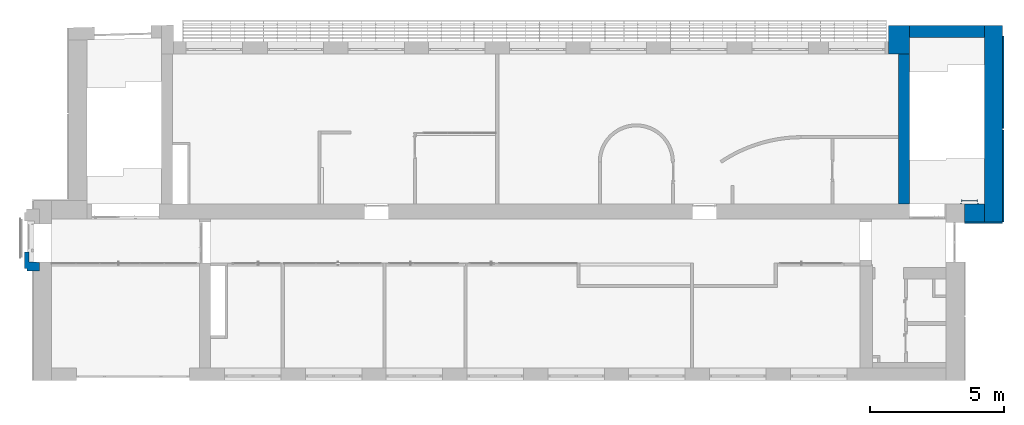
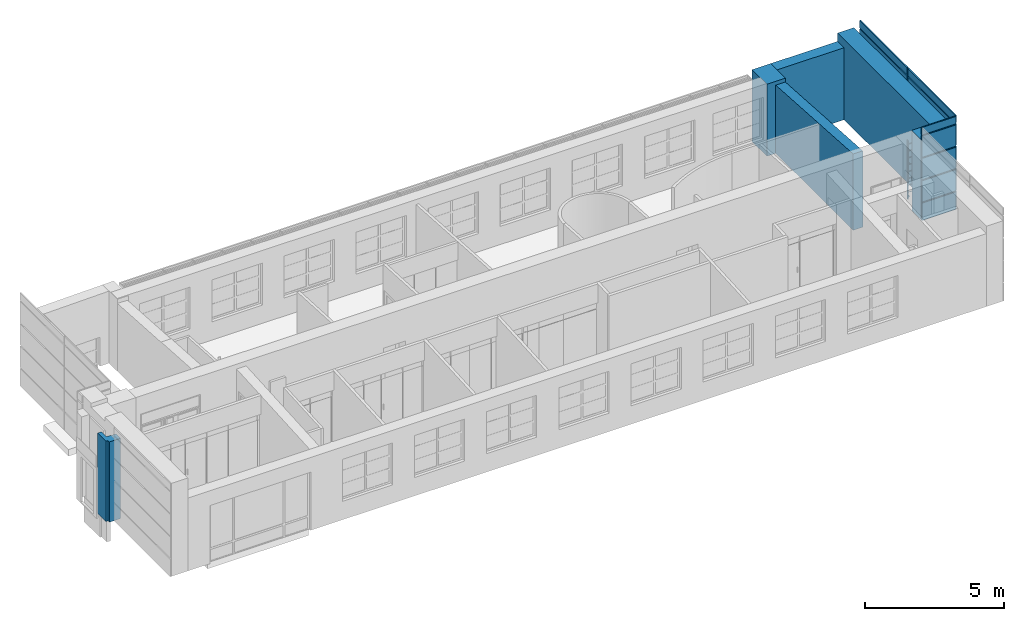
# One storey, part 41 of 46: 8 walls, 1 stair, 2 openings, 1 element without a shape of its own.
"""IFC2X3 building model written with IfcOpenShell, lengths in millimetres."""

from ifc_helpers import new_model, entity, si_unit, converted_unit, derived_unit, direction, frame, frame_2d, origin, origin_2d_with_axis, place, context, subcontext, project, spatial, polyline, rectangle, outline, extrude, clip, halfspace, face_set, surface_model, material, material_list, layer, layer_set, layer_usage, type_object, element, aggregate, save


model = new_model("IFC2X3")

# Units and contexts
model_context = context("Model", 3, precision=0.01, world=origin(), true_north=direction((6.12303176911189e-17, 1.0)))
body_context = subcontext(model_context, "Body", "Model", "MODEL_VIEW")
ifc_project = project(units=[si_unit("LENGTHUNIT", "METRE", prefix="MILLI"), si_unit("AREAUNIT", "SQUARE_METRE"), si_unit("VOLUMEUNIT", "CUBIC_METRE"), converted_unit("PLANEANGLEUNIT", "DEGREE", entity("IfcRatioMeasure", 0.0174532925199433), si_unit("PLANEANGLEUNIT", "RADIAN"), dimensions=[0, 0, 0, 0, 0, 0, 0]), si_unit("MASSUNIT", "GRAM", prefix="KILO"), derived_unit("MASSDENSITYUNIT", [(si_unit("MASSUNIT", "GRAM", prefix="KILO"), 1), (si_unit("LENGTHUNIT", "METRE"), -3)]), si_unit("TIMEUNIT", "SECOND"), si_unit("FREQUENCYUNIT", "HERTZ"), si_unit("THERMODYNAMICTEMPERATUREUNIT", "DEGREE_CELSIUS"), derived_unit("THERMALTRANSMITTANCEUNIT", [(si_unit("MASSUNIT", "GRAM", prefix="KILO"), 1), (si_unit("THERMODYNAMICTEMPERATUREUNIT", "KELVIN"), -1), (si_unit("TIMEUNIT", "SECOND"), -3)]), derived_unit("VOLUMETRICFLOWRATEUNIT", [(si_unit("LENGTHUNIT", "METRE"), 3), (si_unit("TIMEUNIT", "SECOND"), -1)]), si_unit("ELECTRICCURRENTUNIT", "AMPERE"), si_unit("ELECTRICVOLTAGEUNIT", "VOLT"), si_unit("POWERUNIT", "WATT"), si_unit("FORCEUNIT", "NEWTON", prefix="KILO"), si_unit("ILLUMINANCEUNIT", "LUX"), si_unit("LUMINOUSFLUXUNIT", "LUMEN"), si_unit("LUMINOUSINTENSITYUNIT", "CANDELA"), derived_unit("USERDEFINED", [(si_unit("MASSUNIT", "GRAM", prefix="KILO"), -1), (si_unit("LENGTHUNIT", "METRE"), -2), (si_unit("TIMEUNIT", "SECOND"), 3), (si_unit("LUMINOUSFLUXUNIT", "LUMEN"), 1)]), derived_unit("LINEARVELOCITYUNIT", [(si_unit("LENGTHUNIT", "METRE"), 1), (si_unit("TIMEUNIT", "SECOND"), -1)]), si_unit("PRESSUREUNIT", "PASCAL"), derived_unit("USERDEFINED", [(si_unit("LENGTHUNIT", "METRE"), -2), (si_unit("MASSUNIT", "GRAM", prefix="KILO"), 1), (si_unit("TIMEUNIT", "SECOND"), -2)])], contexts=[model_context])

# Site, building, storey
site_placement = place(None, frame((-151.875543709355, 2715.0, 0.0)))
site = spatial("IfcSite", under=ifc_project, at=site_placement, Name="Surface", CompositionType="ELEMENT")
building_placement = place(site_placement, origin())
building = spatial("IfcBuilding", under=site, at=building_placement, CompositionType="ELEMENT")
storey_placement = place(building_placement, frame((0.0, 0.0, 10060.0)))
storey = spatial("IfcBuildingStorey", under=building, at=storey_placement, Name="4 korrus", CompositionType="ELEMENT", Elevation=10060.0000000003)

# Wall
ifc_material_1 = material(Name="Paint - Sand Beige")
wall_type_1 = type_object("IfcWallType", Name="SEIN - 006", PredefinedType="NOTDEFINED", material=ifc_material_1)
wall_1_placement = place(storey_placement, frame((-541.883383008, 4071.05734432, 0.0), z_axis=(0.0, 0.0, 1.0), x_axis=(0.0, 1.0, 0.0)))
element("IfcWall", 1, at=wall_1_placement, inside=storey, type_object=wall_type_1, material=ifc_material_1, Name="SEIN - 006 159147:SEIN - 006 159147", ObjectType="SEIN - 006 159147:SEIN - 006 159147", context=body_context, shape_type="SurfaceModel", body=[
    surface_model("IfcFaceBasedSurfaceModel", [(99.9999990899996, -82.139787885, 3540.0), (99.9999990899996, 0.0, 3540.0), (100.00182932, 0.0, 0.0), (100.00182932, -82.139787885, 0.0), (99.9999990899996, -82.139787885, 3540.0), (0.0, -82.139787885, 3540.0), (0.0, -541.758928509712, 3540.0), (318.92299153, -541.758928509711, 3540.0), (341.8398406, -162.013561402, 3540.0), (700.32644567, -162.013561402, 3540.0), (700.32644567, 0.0, 3540.0), (99.9999990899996, 0.0, 3540.0), (99.9999990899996, 0.0, 3540.0), (700.32644567, 0.0, 3540.0), (700.32828135, 0.0, 0.0), (100.00182932, 0.0, 0.0), (0.00182932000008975, -82.139787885, 0.0), (0.00182932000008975, -541.758928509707, 0.0), (318.92299153, -541.758928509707, 0.0), (341.84167301, -162.013561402, 0.0), (700.32828135, -162.013561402, 0.0), (700.32828135, 0.0, 0.0), (100.00182932, 0.0, 0.0), (100.00182932, -82.139787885, 0.0), (0.0, -82.139787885, 3540.0), (99.9999990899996, -82.139787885, 3540.0), (100.00182932, -82.139787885, 0.0), (0.00182932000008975, -82.139787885, 0.0), (0.00182932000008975, -82.139787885, 0.0), (0.00182932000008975, -541.758928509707, 0.0), (0.0, -541.758928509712, 3540.0), (0.0, -82.139787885, 3540.0), (0.00182932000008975, -541.758928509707, 0.0), (318.92299153, -541.758928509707, 0.0), (318.92299153, -541.758928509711, 3540.0), (0.0, -541.758928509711, 3540.0), (341.841216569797, -162.013533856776, 0.0), (341.839384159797, -162.013533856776, 3540.0), (318.922535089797, -541.758900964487, 3540.0), (318.924360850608, -541.759011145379, 0.0), (341.8398406, -162.013561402, 3540.0), (341.84167301, -162.013561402, 0.0), (700.32828135, -162.013561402, 0.0), (700.32644567, -162.013561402, 3540.0), (700.326445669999, 0.0, 3540.0), (700.326445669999, -162.013561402, 3540.0), (700.32828135, -162.013561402, 0.0), (700.32828135, 0.0, 0.0)], [face_set([[[0, 1, 2, 3]]]), face_set([[[4, 5, 6, 7, 8, 9, 10, 11]]]), face_set([[[12, 13, 14, 15]]]), face_set([[[16, 17, 18, 19, 20, 21, 22, 23]]]), face_set([[[24, 25, 26, 27]]]), face_set([[[28, 29, 30, 31]]]), face_set([[[32, 33, 34, 35]]]), face_set([[[36, 37, 38, 39]]]), face_set([[[40, 41, 42, 43]]]), face_set([[[44, 45, 46, 47]]])]),
])

# Wall, opening
ifc_material_2 = material(Name="Brick, Common")
ifc_layer_1 = layer(ifc_material_2, 750.0)
ifc_material_3 = material(Name="__Kips GN13_tava")
ifc_layer_2 = layer(ifc_material_3, 20.0)
ifc_layer_set_1 = layer_set([ifc_layer_1, ifc_layer_2], Name="Basic Wall:VS-1_770")
ifc_layer_usage_1 = layer_usage(ifc_layer_set_1, "AXIS2", "NEGATIVE", 385.0)
wall_type_2 = type_object("IfcWallType", Name="Basic Wall:VS-1_770", PredefinedType="STANDARD", material=ifc_layer_set_1)
wall_2_placement = place(storey_placement, frame((31987.6162682, 12150.0, 0.0), z_axis=(0.0, 0.0, 1.0), x_axis=(0.0, 1.0, 0.0)))
wall_2 = element("IfcWallStandardCase", 2, at=wall_2_placement, inside=storey, type_object=wall_type_2, material=ifc_layer_usage_1, Name="SEIN - 003", ObjectType="Basic Wall:VS-1_770", context=body_context, shape_type="SweptSolid", body=[
    extrude(rectangle(XDim=1060.0, YDim=769.999999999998, at=frame_2d((530.0, 0.0), x_axis=(-1.0, 0.0))), origin(), (0.0, 0.0, 1.0), 3171.36961755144),
])
opening_1_placement = place(wall_2_placement, origin())
element("IfcOpeningElement", 3, at=opening_1_placement, cuts=wall_2, Name="SEIN - 003", ObjectType="Opening", context=body_context, shape_type="SweptSolid", body=[
    extrude(rectangle(XDim=2099.99999999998, YDim=459.999999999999, at=frame_2d((0.0, 0.0), x_axis=(0.0, 1.0))), frame((830.0, -1685.0, -590.0), z_axis=(0.0, 1.0, 0.0), x_axis=(1.0, 0.0, 0.0)), (0.0, 0.0, 1.0), 1300.0),
])

ifc_layer_3 = layer(ifc_material_2, 440.0)
ifc_layer_4 = layer(ifc_material_3, 20.0)
ifc_layer_set_2 = layer_set([ifc_layer_3, ifc_layer_4], Name="Basic Wall:VS-1")
ifc_layer_usage_2 = layer_usage(ifc_layer_set_2, "AXIS2", "POSITIVE", -230.0)
wall_type_3 = type_object("IfcWallType", Name="Basic Wall:VS-1", PredefinedType="STANDARD", material=ifc_layer_set_2)
wall_3_placement = place(storey_placement, frame((35166.6162682, 12980.0, 0.0), z_axis=(0.0, 0.0, 1.0), x_axis=(-1.0, 0.0, 0.0)))
wall_3 = element("IfcWallStandardCase", 4, at=wall_3_placement, inside=storey, type_object=wall_type_3, material=ifc_layer_usage_2, Name="SEIN - 003", ObjectType="Basic Wall:VS-1", context=body_context, shape_type="SweptSolid", body=[
    extrude(rectangle(XDim=2794.00000000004, YDim=459.999999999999, at=frame_2d((1397.00000000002, 0.0), x_axis=(-1.0, 0.0))), origin(), (0.0, 0.0, 1.0), 3171.36961755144),
])
opening_2_placement = place(wall_3_placement, origin())
element("IfcOpeningElement", 5, at=opening_2_placement, cuts=wall_3, Name="SEIN - 003", ObjectType="Opening", context=body_context, shape_type="SweptSolid", body=[
    extrude(rectangle(XDim=2099.99999999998, YDim=1300.0, at=origin_2d_with_axis()), frame((2144.0, -1294.0, -590.0), z_axis=(0.0, 1.0, 0.0), x_axis=(0.0, 0.0, 1.0)), (0.0, 0.0, 1.0), 3048.0),
])

# Walls
ifc_material_4 = material(Name="__Tuuletõkkeplaat")
ifc_layer_5 = layer(ifc_material_4, 9.0)
ifc_material_5 = material(Name="__Soojustus EPS")
ifc_layer_6 = layer(ifc_material_5, 200.0)
ifc_layer_7 = layer(ifc_material_2, 450.0)
ifc_layer_8 = layer(ifc_material_3, 20.0)
ifc_layer_set_3 = layer_set([ifc_layer_5, ifc_layer_6, ifc_layer_7, ifc_layer_8], Name="Basic Wall:VS-2_olemasolev sein fassaadikassettidega")
ifc_layer_usage_3 = layer_usage(ifc_layer_set_3, "AXIS2", "POSITIVE", -339.5)
wall_type_4 = type_object("IfcWallType", Name="Basic Wall:VS-2_olemasolev sein fassaadikassettidega", PredefinedType="STANDARD", material=ifc_layer_set_3)
wall_4_placement = place(storey_placement, frame((35506.1162682, 5891.0, 0.0), z_axis=(0.0, 0.0, 1.0), x_axis=(0.0, 1.0, 0.0)))
element("IfcWallStandardCase", 6, at=wall_4_placement, inside=storey, type_object=wall_type_4, material=ifc_layer_usage_3, Name="SEIN - 002", ObjectType="Basic Wall:VS-2_olemasolev sein fassaadikassettidega", context=body_context, shape_type="SweptSolid", body=[
    extrude(rectangle(XDim=7318.99999999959, YDim=679.000000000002, at=frame_2d((3659.49999999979, 0.0), x_axis=(-1.0, 0.0))), origin(), (0.0, 0.0, 1.0), 3540.0),
])
ifc_layer_usage_4 = layer_usage(ifc_layer_set_3, "AXIS2", "POSITIVE", -339.5)
wall_5_placement = place(storey_placement, frame((34420.6162682, 6230.5, 0.0)))
element("IfcWallStandardCase", 7, at=wall_5_placement, inside=storey, type_object=wall_type_4, material=ifc_layer_usage_4, Name="SEIN - 003", ObjectType="Basic Wall:VS-2_olemasolev sein fassaadikassettidega", context=body_context, shape_type="SweptSolid", body=[
    extrude(rectangle(XDim=745.999999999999, YDim=678.999999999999, at=frame_2d((373.0, 0.0), x_axis=(-1.0, 0.0))), origin(), (0.0, 0.0, 1.0), 3540.0),
])
ifc_material_6 = material(Name="__Hall krohv")
ifc_layer_9 = layer(ifc_material_6, 10.0)
ifc_material_7 = material(Name="Tellis")
ifc_layer_10 = layer(ifc_material_7, 380.0)
ifc_layer_11 = layer(ifc_material_6, 10.0)
ifc_layer_set_4 = layer_set([ifc_layer_9, ifc_layer_10, ifc_layer_11], Name="Basic Wall:SS-01_ol.olev tellissein400")
ifc_layer_usage_5 = layer_usage(ifc_layer_set_4, "AXIS2", "NEGATIVE", 200.0)
wall_type_5 = type_object("IfcWallType", Name="Basic Wall:SS-01_ol.olev tellissein400", PredefinedType="STANDARD", material=ifc_layer_set_4)
wall_6_placement = place(storey_placement, frame((32172.6162682, 6560.0, 0.0), z_axis=(0.0, 0.0, 1.0), x_axis=(0.0, 1.0, 0.0)))
element("IfcWallStandardCase", 8, at=wall_6_placement, inside=storey, type_object=wall_type_5, material=ifc_layer_usage_5, Name="SEIN - 003", ObjectType="Basic Wall:SS-01_ol.olev tellissein400", context=body_context, shape_type="Clipping", body=[
    clip(extrude(rectangle(XDim=5590.0, YDim=400.000000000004, at=frame_2d((2795.0, 0.0), x_axis=(-1.0, 0.0))), origin(), (0.0, 0.0, 1.0), 3361.62650060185), halfspace(frame((0.0, -200.0, 3361.62650060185), z_axis=(0.0639160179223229, 0.0, 0.997955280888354), x_axis=(0.0, 1.0, 0.0)), False)),
])
ifc_material_8 = material(Name="Steel/Aluminium")
wall_type_6 = type_object("IfcWallType", Name="fassaad5:fassaad5", PredefinedType="NOTDEFINED", material=ifc_material_8)
wall_7_placement = place(storey_placement, frame((35845.6162682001, 5891.0, 0.0), z_axis=(0.0, 0.0, 1.0), x_axis=(0.0, 1.0, 0.0)))
element("IfcWall", 9, at=wall_7_placement, inside=storey, type_object=wall_type_6, material=ifc_material_8, Name="fassaad5:fassaad5", ObjectType="fassaad5:fassaad5", context=body_context, shape_type="SweptSolid", body=[
    extrude(rectangle(XDim=3435.0, YDim=50.0000000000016, at=origin_2d_with_axis()), frame((5202.5, -25.0, 0.0)), (0.0, 0.0, 1.0), 770.115269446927),
    extrude(rectangle(XDim=3434.99999999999, YDim=50.0000000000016, at=frame_2d((5.6843418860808e-13, 0.0), x_axis=(1.0, 0.0))), frame((1717.5, -25.0, 820.115269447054)), (0.0, 0.0, 1.0), 934.999999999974),
    extrude(rectangle(XDim=3435.0, YDim=50.0000000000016, at=frame_2d((5.6843418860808e-13, -2.16715534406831e-12), x_axis=(1.0, 0.0))), frame((1717.5, -25.0, 0.0)), (0.0, 0.0, 1.0), 770.115269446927),
    extrude(rectangle(XDim=3435.00000000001, YDim=50.0000000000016, at=frame_2d((0.0, 2.16537898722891e-12), x_axis=(1.0, 0.0))), frame((5202.5, -25.0, 2790.11526944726)), (0.0, 0.0, 1.0), 934.999999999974),
    extrude(rectangle(XDim=3435.0, YDim=50.0000000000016, at=frame_2d((5.6843418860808e-13, 0.0), x_axis=(1.0, 0.0))), frame((1717.5, -25.0, 2790.11526944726)), (0.0, 0.0, 1.0), 934.999999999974),
    extrude(rectangle(XDim=3435.00000000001, YDim=50.0000000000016, at=frame_2d((0.0, -2.16537898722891e-12), x_axis=(1.0, 0.0))), frame((5202.5, -25.0, 820.115269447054)), (0.0, 0.0, 1.0), 934.999999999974),
    extrude(rectangle(XDim=3435.00000000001, YDim=50.0000000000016, at=frame_2d((-1.13686837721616e-12, 4.33075797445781e-12), x_axis=(1.0, 0.0))), frame((5202.5, -25.0, 3775.11526944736)), (0.0, 0.0, 1.0), 324.884730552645),
    extrude(rectangle(XDim=3434.99999999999, YDim=50.0000000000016, at=frame_2d((5.6843418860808e-13, -2.16715534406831e-12), x_axis=(1.0, 0.0))), frame((1717.5, -25.0, 3775.11526944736)), (0.0, 0.0, 1.0), 324.884730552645),
    extrude(rectangle(XDim=3434.99999999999, YDim=50.0000000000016, at=frame_2d((0.0, -4.33253433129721e-12), x_axis=(1.0, 0.0))), frame((1717.5, -25.0, 1805.11526944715)), (0.0, 0.0, 1.0), 934.999999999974),
    extrude(rectangle(XDim=3435.00000000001, YDim=50.0000000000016, at=frame_2d((4.54747350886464e-13, -2.16537898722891e-12), x_axis=(1.0, 0.0))), frame((5202.5, -25.0, 1805.11526944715)), (0.0, 0.0, 1.0), 934.999999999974),
])
wall_type_7 = type_object("IfcWallType", Name="fassaad6:fassaad6", PredefinedType="NOTDEFINED", material=ifc_material_8)
wall_8_placement = place(storey_placement, frame((34420.6162682, 5841.0, 0.0)))
element("IfcWall", 10, at=wall_8_placement, inside=storey, type_object=wall_type_7, material=ifc_material_8, Name="fassaad6:fassaad6", ObjectType="fassaad6:fassaad6", context=body_context, shape_type="SweptSolid", body=[
    extrude(rectangle(XDim=49.9999999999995, YDim=1425.0, at=frame_2d((0.0, -2.1600499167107e-12), x_axis=(1.0, 0.0))), frame((712.499999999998, 25.0, 0.0), z_axis=(0.0, 0.0, 1.0), x_axis=(0.0, 1.0, 0.0)), (0.0, 0.0, 1.0), 770.115269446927),
    extrude(rectangle(XDim=49.9999999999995, YDim=1425.0, at=frame_2d((5.41788836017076e-13, 2.1600499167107e-12), x_axis=(1.0, 0.0))), frame((712.500000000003, 25.0, 820.115269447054), z_axis=(0.0, 0.0, 1.0), x_axis=(0.0, 1.0, 0.0)), (0.0, 0.0, 1.0), 934.999999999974),
    extrude(rectangle(XDim=49.9999999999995, YDim=1425.00000000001, at=frame_2d((5.41788836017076e-13, -2.1600499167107e-12), x_axis=(1.0, 0.0))), frame((712.500000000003, 25.0, 3775.11526944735), z_axis=(0.0, 0.0, 1.0), x_axis=(0.0, 1.0, 0.0)), (0.0, 0.0, 1.0), 324.884730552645),
    extrude(rectangle(XDim=49.9999999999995, YDim=1425.0, at=origin_2d_with_axis()), frame((712.500000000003, 25.0, 2790.11526944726), z_axis=(0.0, 0.0, 1.0), x_axis=(0.0, 1.0, 0.0)), (0.0, 0.0, 1.0), 934.999999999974),
    extrude(rectangle(XDim=49.9999999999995, YDim=1425.0, at=frame_2d((0.0, 2.1600499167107e-12), x_axis=(1.0, 0.0))), frame((712.500000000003, 25.0, 1805.11526944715), z_axis=(0.0, 0.0, 1.0), x_axis=(0.0, 1.0, 0.0)), (0.0, 0.0, 1.0), 934.999999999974),
])

# Stairs
stair_1_placement = place(storey_placement, origin())
stair_1 = element("IfcStair", 11, at=stair_1_placement, inside=storey, Name="LADDER_12760:LADDER_12760", ObjectType="LADDER_12760:LADDER_12760", ShapeType="NOTDEFINED")
ifc_material_9 = material(Name="SIDE RAILS")
ifc_material_10 = material(Name="LADDER CONNECTION")
ifc_material_11 = material(Name="RUNGS")
ifc_material_list = material_list([ifc_material_9, ifc_material_10, ifc_material_11])
stair_2_placement = place(stair_1_placement, origin())
stair_2 = element("IfcStair", 12, at=stair_2_placement, material=ifc_material_list, Name="LADDER_12760:LADDER_12760", ObjectType="LADDER_12760:LADDER_12760", ShapeType="NOTDEFINED", context=body_context, shape_type="SweptSolid", body=[
    extrude(rectangle(XDim=76.2, YDim=25.4000000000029, at=origin_2d_with_axis()), frame((34903.3787682, 6684.3, 483.070589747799), z_axis=(0.0, 0.0, 1.0), x_axis=(0.0, -1.0, 0.0)), (0.0, 0.0, 1.0), 2423.3673606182),
    extrude(rectangle(XDim=76.2, YDim=25.4000000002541, at=origin_2d_with_axis()), frame((34319.1787682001, 6684.3, 483.070589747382), z_axis=(0.0, 0.0, 1.0), x_axis=(0.0, -1.0, 0.0)), (0.0, 0.0, 1.0), 2423.36736061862),
    extrude(rectangle(XDim=76.2, YDim=25.3999999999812, at=frame_2d((0.0, -2.16626716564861e-12), x_axis=(1.0, 0.0))), frame((34903.3787682, 6684.3, 2906.437950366), z_axis=(0.0, 0.0, 1.0), x_axis=(0.0, -1.0, 0.0)), (0.0, 0.0, 1.0), 165.056146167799),
    extrude(rectangle(XDim=76.2, YDim=25.4000000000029, at=origin_2d_with_axis()), frame((34319.1787682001, 6684.3, 2906.437950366), z_axis=(0.0, 0.0, 1.0), x_axis=(0.0, -1.0, 0.0)), (0.0, 0.0, 1.0), 165.056146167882),
    extrude(outline(polyline([(-27.5166666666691, -27.5166666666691), (48.6833333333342, -27.5166666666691), (48.6833333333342, -21.1666666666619), (-21.1666666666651, -21.1666666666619), (-21.1666666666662, 48.6833333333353), (-27.5166666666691, 48.6833333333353), (-27.5166666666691, -27.5166666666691)])), frame((34304.3621015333, 6597.51666666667, 635.470589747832), z_axis=(0.0, 0.0, 1.0), x_axis=(0.0, 1.0, 0.0)), (0.0, 0.0, 1.0), 50.7999999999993),
    extrude(outline(polyline([(-27.5166666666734, -27.5166666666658), (48.6833333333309, -27.5166666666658), (48.6833333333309, -21.1666666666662), (-21.1666666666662, -21.1666666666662), (-21.1666666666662, 48.6833333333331), (-27.5166666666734, 48.6833333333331), (-27.5166666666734, -27.5166666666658)])), frame((34918.1954348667, 6597.51666666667, 635.470589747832)), (0.0, 0.0, 1.0), 50.7999999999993),
    extrude(outline(polyline([(-27.5166666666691, -27.5166666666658), (48.6833333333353, -27.5166666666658), (48.6833333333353, -21.1666666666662), (-21.1666666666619, -21.1666666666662), (-21.1666666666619, 48.6833333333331), (-27.5166666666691, 48.6833333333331), (-27.5166666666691, -27.5166666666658)])), frame((34918.1954348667, 6597.51666666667, 2079.8705897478)), (0.0, 0.0, 1.0), 50.7999999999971),
    extrude(outline(polyline([(-27.5166666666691, -27.5166666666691), (48.6833333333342, -27.5166666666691), (48.6833333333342, -21.1666666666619), (-21.1666666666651, -21.1666666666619), (-21.1666666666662, 48.6833333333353), (-27.5166666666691, 48.6833333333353), (-27.5166666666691, -27.5166666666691)])), frame((34304.3621015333, 6597.51666666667, 2079.8705897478), z_axis=(0.0, 0.0, 1.0), x_axis=(0.0, 1.0, 0.0)), (0.0, 0.0, 1.0), 50.7999999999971),
    extrude(rectangle(XDim=19.05, YDim=558.800000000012, at=origin_2d_with_axis()), frame((34611.2787682, 6681.125, 768.820589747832), z_axis=(0.0, 0.0, 1.0), x_axis=(0.0, -1.0, 0.0)), (0.0, 0.0, 1.0), 19.0500000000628),
    extrude(rectangle(XDim=19.05, YDim=558.800000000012, at=origin_2d_with_axis()), frame((34611.2787682, 6681.125, 2887.38795036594), z_axis=(0.0, 0.0, 1.0), x_axis=(0.0, -1.0, 0.0)), (0.0, 0.0, 1.0), 19.0500000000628),
    extrude(rectangle(XDim=19.05, YDim=558.800000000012, at=origin_2d_with_axis()), frame((34611.2787682, 6681.125, 1071.47306983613), z_axis=(0.0, 0.0, 1.0), x_axis=(0.0, -1.0, 0.0)), (0.0, 0.0, 1.0), 19.0500000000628),
    extrude(rectangle(XDim=19.05, YDim=558.800000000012, at=origin_2d_with_axis()), frame((34611.2787682, 6681.125, 1374.12554992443), z_axis=(0.0, 0.0, 1.0), x_axis=(0.0, -1.0, 0.0)), (0.0, 0.0, 1.0), 19.0500000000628),
    extrude(rectangle(XDim=19.05, YDim=558.800000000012, at=origin_2d_with_axis()), frame((34611.2787682, 6681.125, 1676.77803001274), z_axis=(0.0, 0.0, 1.0), x_axis=(0.0, -1.0, 0.0)), (0.0, 0.0, 1.0), 19.0500000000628),
    extrude(rectangle(XDim=19.05, YDim=558.800000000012, at=origin_2d_with_axis()), frame((34611.2787682, 6681.125, 1979.43051010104), z_axis=(0.0, 0.0, 1.0), x_axis=(0.0, -1.0, 0.0)), (0.0, 0.0, 1.0), 19.050000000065),
    extrude(rectangle(XDim=19.05, YDim=558.800000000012, at=origin_2d_with_axis()), frame((34611.2787682, 6681.125, 2282.08299018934), z_axis=(0.0, 0.0, 1.0), x_axis=(0.0, -1.0, 0.0)), (0.0, 0.0, 1.0), 19.0500000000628),
    extrude(rectangle(XDim=19.05, YDim=558.800000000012, at=origin_2d_with_axis()), frame((34611.2787682, 6681.125, 2584.73547027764), z_axis=(0.0, 0.0, 1.0), x_axis=(0.0, -1.0, 0.0)), (0.0, 0.0, 1.0), 19.050000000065),
])
aggregate(stair_1, [stair_2])

save(model, "model.ifc")
